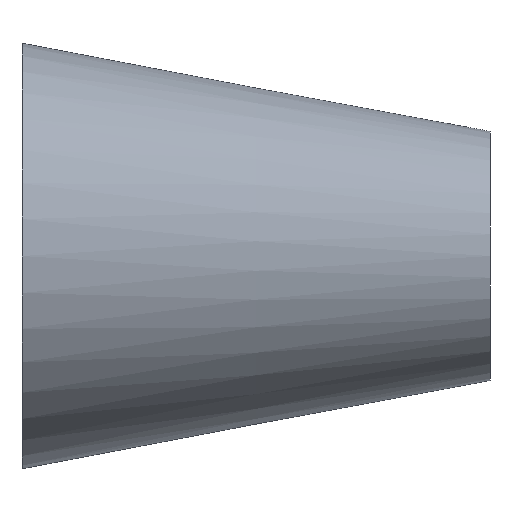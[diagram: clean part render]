
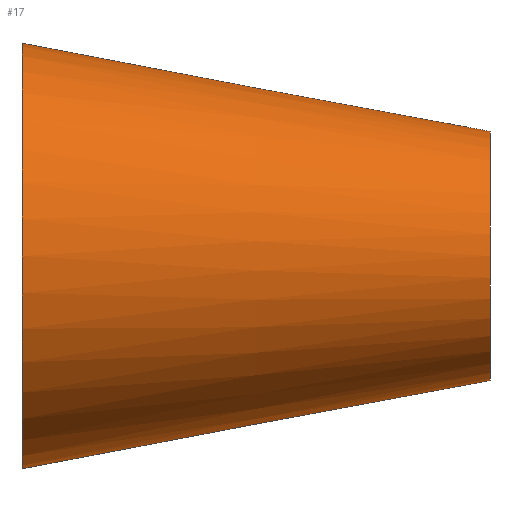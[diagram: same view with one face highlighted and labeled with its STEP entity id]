
A CAD part, front view. The second image highlights one B-rep face of the part: STEP entity #17.
In plain terms, the highlighted free-form (B-spline) face has degree [14, 1] with [15, 2] control points.
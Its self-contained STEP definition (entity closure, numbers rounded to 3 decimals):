
#17 = ADVANCED_FACE('',(#18),#31,.T.);
#18 = FACE_BOUND('',#19,.T.);
#19 = EDGE_LOOP('',(#20,#80,#102,#129));
#20 = ORIENTED_EDGE('',*,*,#21,.T.);
#21 = EDGE_CURVE('',#22,#22,#24,.T.);
#22 = VERTEX_POINT('',#23);
#23 = CARTESIAN_POINT('',(0.,35.,0.));
#24 = SURFACE_CURVE('',#25,(#30,#68),.PCURVE_S1.);
#25 = CIRCLE('',#26,35.);
#26 = AXIS2_PLACEMENT_3D('',#27,#28,#29);
#27 = CARTESIAN_POINT('',(0.,0.,0.));
#28 = DIRECTION('',(1.,0.,0.));
#29 = DIRECTION('',(0.,1.,0.));
#30 = PCURVE('',#31,#62);
#31 = B_SPLINE_SURFACE_WITH_KNOTS('',14,1,(
    (#32,#33)
    ,(#34,#35)
    ,(#36,#37)
    ,(#38,#39)
    ,(#40,#41)
    ,(#42,#43)
    ,(#44,#45)
    ,(#46,#47)
    ,(#48,#49)
    ,(#50,#51)
    ,(#52,#53)
    ,(#54,#55)
    ,(#56,#57)
    ,(#58,#59)
    ,(#60,#61
    )),.UNSPECIFIED.,.T.,.F.,.F.,(15,15),(2,2),(0.,6.283),(0.,1.
    ),.PIECEWISE_BEZIER_KNOTS.);
#32 = CARTESIAN_POINT('',(0.,35.,0.));
#33 = CARTESIAN_POINT('',(77.,6.,0.));
#34 = CARTESIAN_POINT('',(0.,35.,15.708));
#35 = CARTESIAN_POINT('',(77.,6.,9.2)
  );
#36 = CARTESIAN_POINT('',(0.,27.408,31.416));
#37 = CARTESIAN_POINT('',(77.,1.553,18.401
    ));
#38 = CARTESIAN_POINT('',(0.,12.224,43.149));
#39 = CARTESIAN_POINT('',(77.,-7.34,
    25.273));
#40 = CARTESIAN_POINT('',(0.,-8.281,46.931));
#41 = CARTESIAN_POINT('',(77.,-19.351,
    27.488));
#42 = CARTESIAN_POINT('',(0.,-29.567,40.214));
#43 = CARTESIAN_POINT('',(77.,-31.818,
    23.554));
#44 = CARTESIAN_POINT('',(0.,-45.816,23.306));
#45 = CARTESIAN_POINT('',(77.,-41.335,
    13.651));
#46 = CARTESIAN_POINT('',(0.,-51.934,0.));
#47 = CARTESIAN_POINT('',(77.,-44.918,
    0.));
#48 = CARTESIAN_POINT('',(0.,-45.816,-23.306));
#49 = CARTESIAN_POINT('',(77.,-41.335,-13.651
    ));
#50 = CARTESIAN_POINT('',(0.,-29.567,-40.214));
#51 = CARTESIAN_POINT('',(77.,-31.818,
    -23.554));
#52 = CARTESIAN_POINT('',(0.,-8.281,-46.931));
#53 = CARTESIAN_POINT('',(77.,-19.351,
    -27.488));
#54 = CARTESIAN_POINT('',(0.,12.224,-43.149));
#55 = CARTESIAN_POINT('',(77.,-7.34,-25.273
    ));
#56 = CARTESIAN_POINT('',(0.,27.408,-31.416));
#57 = CARTESIAN_POINT('',(77.,1.553,-18.401
    ));
#58 = CARTESIAN_POINT('',(0.,35.,-15.708));
#59 = CARTESIAN_POINT('',(77.,6.,-9.2
    ));
#60 = CARTESIAN_POINT('',(0.,35.,0.));
#61 = CARTESIAN_POINT('',(77.,6.,0.));
#62 = DEFINITIONAL_REPRESENTATION('',(#63),#67);
#63 = LINE('',#64,#65);
#64 = CARTESIAN_POINT('',(0.,0.));
#65 = VECTOR('',#66,1.);
#66 = DIRECTION('',(1.,0.));
#67 = ( GEOMETRIC_REPRESENTATION_CONTEXT(2) 
PARAMETRIC_REPRESENTATION_CONTEXT() REPRESENTATION_CONTEXT('2D SPACE',''
  ) );
#68 = PCURVE('',#69,#74);
#69 = PLANE('',#70);
#70 = AXIS2_PLACEMENT_3D('',#71,#72,#73);
#71 = CARTESIAN_POINT('',(0.,0.,0.));
#72 = DIRECTION('',(1.,0.,0.));
#73 = DIRECTION('',(0.,1.,0.));
#74 = DEFINITIONAL_REPRESENTATION('',(#75),#79);
#75 = CIRCLE('',#76,35.);
#76 = AXIS2_PLACEMENT_2D('',#77,#78);
#77 = CARTESIAN_POINT('',(0.,0.));
#78 = DIRECTION('',(1.,0.));
#79 = ( GEOMETRIC_REPRESENTATION_CONTEXT(2) 
PARAMETRIC_REPRESENTATION_CONTEXT() REPRESENTATION_CONTEXT('2D SPACE',''
  ) );
#80 = ORIENTED_EDGE('',*,*,#81,.T.);
#81 = EDGE_CURVE('',#22,#82,#84,.T.);
#82 = VERTEX_POINT('',#83);
#83 = CARTESIAN_POINT('',(77.,6.,0.));
#84 = SEAM_CURVE('',#85,(#88,#95),.PCURVE_S1.);
#85 = B_SPLINE_CURVE_WITH_KNOTS('',1,(#86,#87),.UNSPECIFIED.,.F.,.F.,(2,
    2),(0.,1.),.PIECEWISE_BEZIER_KNOTS.);
#86 = CARTESIAN_POINT('',(0.,35.,0.));
#87 = CARTESIAN_POINT('',(77.,6.,0.));
#88 = PCURVE('',#31,#89);
#89 = DEFINITIONAL_REPRESENTATION('',(#90),#94);
#90 = LINE('',#91,#92);
#91 = CARTESIAN_POINT('',(6.283,0.));
#92 = VECTOR('',#93,1.);
#93 = DIRECTION('',(0.,1.));
#94 = ( GEOMETRIC_REPRESENTATION_CONTEXT(2) 
PARAMETRIC_REPRESENTATION_CONTEXT() REPRESENTATION_CONTEXT('2D SPACE',''
  ) );
#95 = PCURVE('',#31,#96);
#96 = DEFINITIONAL_REPRESENTATION('',(#97),#101);
#97 = LINE('',#98,#99);
#98 = CARTESIAN_POINT('',(0.,0.));
#99 = VECTOR('',#100,1.);
#100 = DIRECTION('',(0.,1.));
#101 = ( GEOMETRIC_REPRESENTATION_CONTEXT(2) 
PARAMETRIC_REPRESENTATION_CONTEXT() REPRESENTATION_CONTEXT('2D SPACE',''
  ) );
#102 = ORIENTED_EDGE('',*,*,#103,.F.);
#103 = EDGE_CURVE('',#82,#82,#104,.T.);
#104 = SURFACE_CURVE('',#105,(#110,#117),.PCURVE_S1.);
#105 = CIRCLE('',#106,20.5);
#106 = AXIS2_PLACEMENT_3D('',#107,#108,#109);
#107 = CARTESIAN_POINT('',(77.,-14.5,0.));
#108 = DIRECTION('',(1.,0.,0.));
#109 = DIRECTION('',(0.,1.,0.));
#110 = PCURVE('',#31,#111);
#111 = DEFINITIONAL_REPRESENTATION('',(#112),#116);
#112 = LINE('',#113,#114);
#113 = CARTESIAN_POINT('',(0.,1.));
#114 = VECTOR('',#115,1.);
#115 = DIRECTION('',(1.,0.));
#116 = ( GEOMETRIC_REPRESENTATION_CONTEXT(2) 
PARAMETRIC_REPRESENTATION_CONTEXT() REPRESENTATION_CONTEXT('2D SPACE',''
  ) );
#117 = PCURVE('',#118,#123);
#118 = PLANE('',#119);
#119 = AXIS2_PLACEMENT_3D('',#120,#121,#122);
#120 = CARTESIAN_POINT('',(77.,-14.5,0.));
#121 = DIRECTION('',(1.,0.,0.));
#122 = DIRECTION('',(0.,1.,0.));
#123 = DEFINITIONAL_REPRESENTATION('',(#124),#128);
#124 = CIRCLE('',#125,20.5);
#125 = AXIS2_PLACEMENT_2D('',#126,#127);
#126 = CARTESIAN_POINT('',(0.,0.));
#127 = DIRECTION('',(1.,0.));
#128 = ( GEOMETRIC_REPRESENTATION_CONTEXT(2) 
PARAMETRIC_REPRESENTATION_CONTEXT() REPRESENTATION_CONTEXT('2D SPACE',''
  ) );
#129 = ORIENTED_EDGE('',*,*,#81,.F.);
